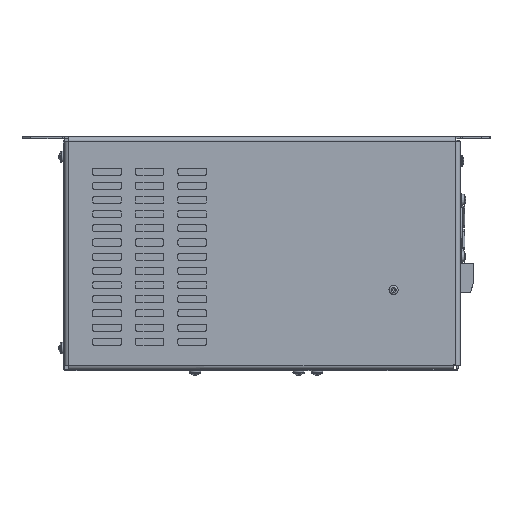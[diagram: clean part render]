
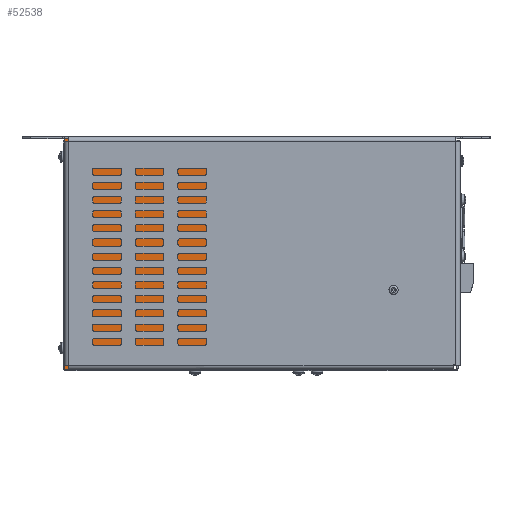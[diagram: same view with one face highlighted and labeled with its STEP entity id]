
A CAD part, front view. The second image highlights one B-rep face of the part: STEP entity #52538.
In plain terms, the highlighted planar face has unit normal (0, -1, 0).
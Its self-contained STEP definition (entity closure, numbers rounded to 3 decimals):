
#1011=FACE_BOUND('',#5934,.T.);
#1012=FACE_BOUND('',#5935,.T.);
#1421=PLANE('',#55542);
#3020=FACE_OUTER_BOUND('',#5933,.T.);
#5933=EDGE_LOOP('',(#33713,#33714,#33715,#33716,#33717,#33718,#33719,#33720,
#33721,#33722,#33723,#33724));
#5934=EDGE_LOOP('',(#33725,#33726,#33727,#33728,#33729,#33730));
#5935=EDGE_LOOP('',(#33731,#33732,#33733,#33734));
#11883=LINE('',#76513,#16400);
#11884=LINE('',#76515,#16401);
#11885=LINE('',#76517,#16402);
#11886=LINE('',#76519,#16403);
#11887=LINE('',#76521,#16404);
#11888=LINE('',#76523,#16405);
#11889=LINE('',#76525,#16406);
#11890=LINE('',#76527,#16407);
#11891=LINE('',#76529,#16408);
#11892=LINE('',#76531,#16409);
#11893=LINE('',#76533,#16410);
#11894=LINE('',#76534,#16411);
#11895=LINE('',#76537,#16412);
#11896=LINE('',#76539,#16413);
#11897=LINE('',#76541,#16414);
#11898=LINE('',#76543,#16415);
#11899=LINE('',#76545,#16416);
#11900=LINE('',#76546,#16417);
#11901=LINE('',#76549,#16418);
#11902=LINE('',#76551,#16419);
#11903=LINE('',#76553,#16420);
#11904=LINE('',#76554,#16421);
#16400=VECTOR('',#61042,10.);
#16401=VECTOR('',#61043,10.);
#16402=VECTOR('',#61044,10.);
#16403=VECTOR('',#61045,10.);
#16404=VECTOR('',#61046,10.);
#16405=VECTOR('',#61047,10.);
#16406=VECTOR('',#61048,10.);
#16407=VECTOR('',#61049,10.);
#16408=VECTOR('',#61050,10.);
#16409=VECTOR('',#61051,10.);
#16410=VECTOR('',#61052,10.);
#16411=VECTOR('',#61053,10.);
#16412=VECTOR('',#61054,10.);
#16413=VECTOR('',#61055,10.);
#16414=VECTOR('',#61056,10.);
#16415=VECTOR('',#61057,10.);
#16416=VECTOR('',#61058,10.);
#16417=VECTOR('',#61059,10.);
#16418=VECTOR('',#61060,10.);
#16419=VECTOR('',#61061,10.);
#16420=VECTOR('',#61062,10.);
#16421=VECTOR('',#61063,10.);
#20929=VERTEX_POINT('',#76511);
#20930=VERTEX_POINT('',#76512);
#20931=VERTEX_POINT('',#76514);
#20932=VERTEX_POINT('',#76516);
#20933=VERTEX_POINT('',#76518);
#20934=VERTEX_POINT('',#76520);
#20935=VERTEX_POINT('',#76522);
#20936=VERTEX_POINT('',#76524);
#20937=VERTEX_POINT('',#76526);
#20938=VERTEX_POINT('',#76528);
#20939=VERTEX_POINT('',#76530);
#20940=VERTEX_POINT('',#76532);
#20941=VERTEX_POINT('',#76535);
#20942=VERTEX_POINT('',#76536);
#20943=VERTEX_POINT('',#76538);
#20944=VERTEX_POINT('',#76540);
#20945=VERTEX_POINT('',#76542);
#20946=VERTEX_POINT('',#76544);
#20947=VERTEX_POINT('',#76547);
#20948=VERTEX_POINT('',#76548);
#20949=VERTEX_POINT('',#76550);
#20950=VERTEX_POINT('',#76552);
#26029=EDGE_CURVE('',#20929,#20930,#11883,.T.);
#26030=EDGE_CURVE('',#20929,#20931,#11884,.T.);
#26031=EDGE_CURVE('',#20931,#20932,#11885,.T.);
#26032=EDGE_CURVE('',#20932,#20933,#11886,.T.);
#26033=EDGE_CURVE('',#20933,#20934,#11887,.T.);
#26034=EDGE_CURVE('',#20935,#20934,#11888,.T.);
#26035=EDGE_CURVE('',#20936,#20935,#11889,.T.);
#26036=EDGE_CURVE('',#20937,#20936,#11890,.T.);
#26037=EDGE_CURVE('',#20937,#20938,#11891,.T.);
#26038=EDGE_CURVE('',#20938,#20939,#11892,.T.);
#26039=EDGE_CURVE('',#20939,#20940,#11893,.T.);
#26040=EDGE_CURVE('',#20930,#20940,#11894,.T.);
#26041=EDGE_CURVE('',#20941,#20942,#11895,.T.);
#26042=EDGE_CURVE('',#20943,#20941,#11896,.T.);
#26043=EDGE_CURVE('',#20944,#20943,#11897,.T.);
#26044=EDGE_CURVE('',#20945,#20944,#11898,.T.);
#26045=EDGE_CURVE('',#20946,#20945,#11899,.T.);
#26046=EDGE_CURVE('',#20942,#20946,#11900,.T.);
#26047=EDGE_CURVE('',#20947,#20948,#11901,.T.);
#26048=EDGE_CURVE('',#20949,#20947,#11902,.T.);
#26049=EDGE_CURVE('',#20950,#20949,#11903,.T.);
#26050=EDGE_CURVE('',#20948,#20950,#11904,.T.);
#33713=ORIENTED_EDGE('',*,*,#26029,.F.);
#33714=ORIENTED_EDGE('',*,*,#26030,.T.);
#33715=ORIENTED_EDGE('',*,*,#26031,.T.);
#33716=ORIENTED_EDGE('',*,*,#26032,.T.);
#33717=ORIENTED_EDGE('',*,*,#26033,.T.);
#33718=ORIENTED_EDGE('',*,*,#26034,.F.);
#33719=ORIENTED_EDGE('',*,*,#26035,.F.);
#33720=ORIENTED_EDGE('',*,*,#26036,.F.);
#33721=ORIENTED_EDGE('',*,*,#26037,.T.);
#33722=ORIENTED_EDGE('',*,*,#26038,.T.);
#33723=ORIENTED_EDGE('',*,*,#26039,.T.);
#33724=ORIENTED_EDGE('',*,*,#26040,.F.);
#33725=ORIENTED_EDGE('',*,*,#26041,.F.);
#33726=ORIENTED_EDGE('',*,*,#26042,.F.);
#33727=ORIENTED_EDGE('',*,*,#26043,.F.);
#33728=ORIENTED_EDGE('',*,*,#26044,.F.);
#33729=ORIENTED_EDGE('',*,*,#26045,.F.);
#33730=ORIENTED_EDGE('',*,*,#26046,.F.);
#33731=ORIENTED_EDGE('',*,*,#26047,.F.);
#33732=ORIENTED_EDGE('',*,*,#26048,.F.);
#33733=ORIENTED_EDGE('',*,*,#26049,.F.);
#33734=ORIENTED_EDGE('',*,*,#26050,.F.);
#52538=ADVANCED_FACE('',(#3020,#1011,#1012),#1421,.T.);
#55542=AXIS2_PLACEMENT_3D('',#76510,#61040,#61041);
#61040=DIRECTION('center_axis',(0.,-1.,0.));
#61041=DIRECTION('ref_axis',(-1.,0.,0.));
#61042=DIRECTION('',(0.,0.,-1.));
#61043=DIRECTION('',(-1.,0.,0.));
#61044=DIRECTION('',(0.,0.,-1.));
#61045=DIRECTION('',(1.,0.,0.));
#61046=DIRECTION('',(0.,0.,1.));
#61047=DIRECTION('',(1.,0.,0.));
#61048=DIRECTION('',(0.,0.,-1.));
#61049=DIRECTION('',(-1.,0.,0.));
#61050=DIRECTION('',(0.,0.,1.));
#61051=DIRECTION('',(1.,0.,0.));
#61052=DIRECTION('',(0.,0.,1.));
#61053=DIRECTION('',(1.,0.,0.));
#61054=DIRECTION('',(1.,0.,0.));
#61055=DIRECTION('',(0.,0.,-1.));
#61056=DIRECTION('',(-0.707,0.,-0.707));
#61057=DIRECTION('',(-1.,0.,0.));
#61058=DIRECTION('',(-0.707,0.,0.707));
#61059=DIRECTION('',(0.,0.,1.));
#61060=DIRECTION('',(0.,0.,1.));
#61061=DIRECTION('',(1.,0.,0.));
#61062=DIRECTION('',(0.,0.,-1.));
#61063=DIRECTION('',(-1.,0.,0.));
#76510=CARTESIAN_POINT('Origin',(23.,-48.,-82.75));
#76511=CARTESIAN_POINT('',(-112.,-48.,-1.5));
#76512=CARTESIAN_POINT('',(-112.,-48.,-1.882));
#76513=CARTESIAN_POINT('',(-112.,-48.,-42.161));
#76514=CARTESIAN_POINT('',(-115.,-48.,-1.5));
#76515=CARTESIAN_POINT('',(-115.,-48.,-1.5));
#76516=CARTESIAN_POINT('',(-115.,-48.,-164.));
#76517=CARTESIAN_POINT('',(-115.,-48.,-164.));
#76518=CARTESIAN_POINT('',(71.,-48.,-164.));
#76519=CARTESIAN_POINT('',(71.,-48.,-164.));
#76520=CARTESIAN_POINT('',(71.,-48.,-163.828));
#76521=CARTESIAN_POINT('',(71.,-48.,-113.));
#76522=CARTESIAN_POINT('',(-112.,-48.,-163.828));
#76523=CARTESIAN_POINT('',(23.5,-48.,-163.828));
#76524=CARTESIAN_POINT('',(-112.,-48.,-162.118));
#76525=CARTESIAN_POINT('',(-112.,-48.,-123.));
#76526=CARTESIAN_POINT('',(71.,-48.,-162.118));
#76527=CARTESIAN_POINT('',(23.5,-48.,-162.118));
#76528=CARTESIAN_POINT('',(71.,-48.,-113.));
#76529=CARTESIAN_POINT('',(71.,-48.,-113.));
#76530=CARTESIAN_POINT('',(161.,-48.,-113.));
#76531=CARTESIAN_POINT('',(161.,-48.,-113.));
#76532=CARTESIAN_POINT('',(161.,-48.,-1.882));
#76533=CARTESIAN_POINT('',(161.,-48.,-1.5));
#76534=CARTESIAN_POINT('',(24.5,-48.,-1.882));
#76535=CARTESIAN_POINT('',(74.75,-48.,-112.658));
#76536=CARTESIAN_POINT('',(159.5,-48.,-112.658));
#76537=CARTESIAN_POINT('',(117.125,-48.,-112.658));
#76538=CARTESIAN_POINT('',(74.75,-48.,-104.));
#76539=CARTESIAN_POINT('',(74.75,-48.,-95.375));
#76540=CARTESIAN_POINT('',(76.75,-48.,-102.));
#76541=CARTESIAN_POINT('',(67.625,-48.,-111.125));
#76542=CARTESIAN_POINT('',(157.5,-48.,-102.));
#76543=CARTESIAN_POINT('',(48.875,-48.,-102.));
#76544=CARTESIAN_POINT('',(159.5,-48.,-104.));
#76545=CARTESIAN_POINT('',(119.562,-48.,-64.063));
#76546=CARTESIAN_POINT('',(159.5,-48.,-95.375));
#76547=CARTESIAN_POINT('',(-113.118,-48.,-161.));
#76548=CARTESIAN_POINT('',(-113.118,-48.,-3.));
#76549=CARTESIAN_POINT('',(-113.118,-48.,-82.));
#76550=CARTESIAN_POINT('',(-114.828,-48.,-161.));
#76551=CARTESIAN_POINT('',(-45.625,-48.,-161.));
#76552=CARTESIAN_POINT('',(-114.828,-48.,-3.));
#76553=CARTESIAN_POINT('',(-114.828,-48.,-82.));
#76554=CARTESIAN_POINT('',(-45.625,-48.,-3.));
